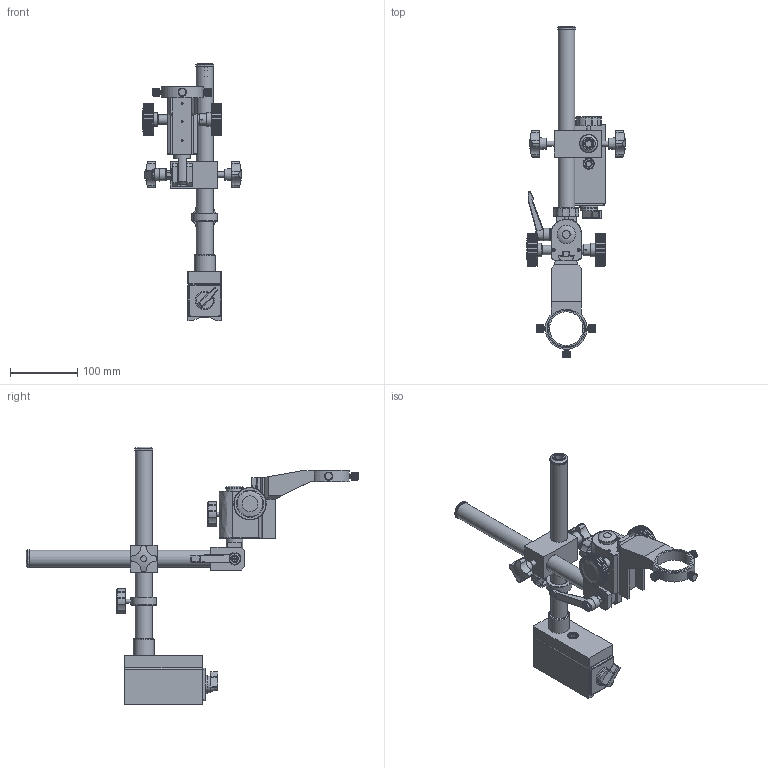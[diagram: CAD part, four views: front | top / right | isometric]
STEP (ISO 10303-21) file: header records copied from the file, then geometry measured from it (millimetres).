
FILE_DESCRIPTION(('STEP AP214'),'1');
FILE_NAME('GR-STD10-MG.stp','2026-04-22T02:00:08',(' '),(' '),'Spatial InterOp 3D',' ',' ');
FILE_SCHEMA(('AUTOMOTIVE_DESIGN { 1 0 10303 214 1 1 1 1 }'));
Length unit declared in the file: metre
Products named in the file (5): GR-STD10-MG; Component1; Component2; Component3; Component4
Assembly tree (4 placements, depth 2):
  GR-STD10-MG
    Component1
    Component2
    Component3
    Component4
Bounding box: 147.11 x 493.49 x 383.2 mm (x, y, z)
Volume: 1049152.6 mm3; surface area: 284875.8 mm2
Topology: 10 solids, 11 shells, 3352 faces, 8038 edges, 4842 vertices
Faces by surface type: plane 2414, cylinder 661, bspline 155, torus 60, cone 50, sphere 12
Full cylindrical faces by diameter (mm): 1.5 x4, 2.5 x3, 3.9 x2, 4 x4, 4.6 x3, 4.8 x3, 5 x1, 5.5 x3, 5.7 x3, 5.8 x1, 6 x2, 6.5 x1, 6.9 x1, 7 x2, 8 x4, 8.3 x1, 9.3 x1, 9.8 x3, 9.9 x2, 10 x3, 10.5 x1, 11 x1, 11.7 x7, 12.1 x1, 12.4 x1, 12.9 x1, 13.1 x1, 13.9 x1, 14 x2, 14.5 x1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
Entity records: 212373 total; most frequent: CARTESIAN_POINT 70351, DIRECTION 15828, ORIENTED_EDGE 15452, STYLED_ITEM 11088, PRESENTATION_STYLE_ASSIGNMENT 11088, COLOUR_RGB 11088, EDGE_CURVE 7726, CURVE_STYLE 7726
